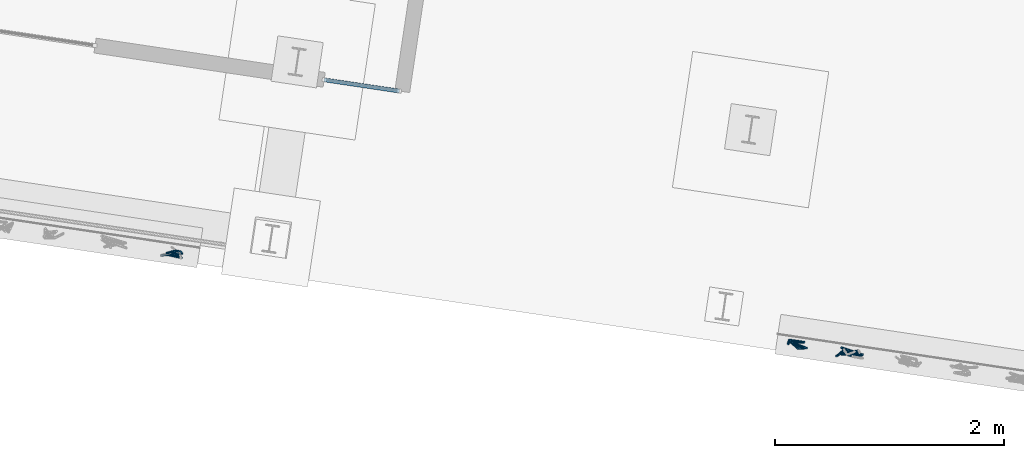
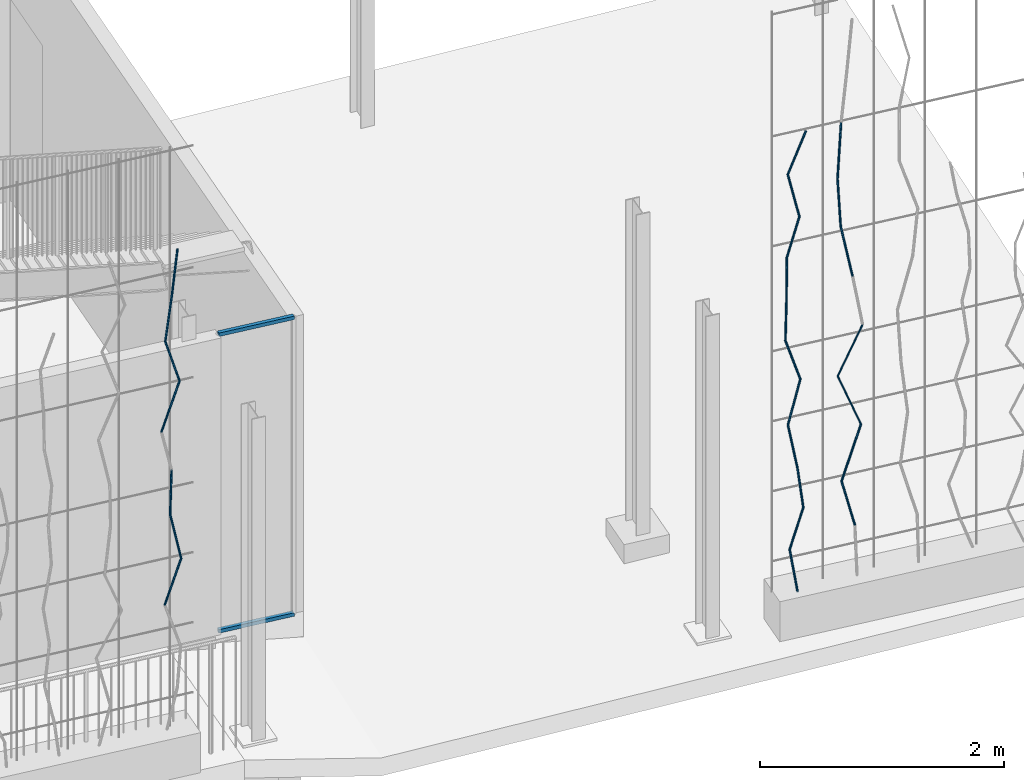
# One storey, part 124 of 142: 27 members, 1 element without a shape of its own.
"""IFC4 building model written with IfcOpenShell, lengths in metres."""

from ifc_helpers import new_model, si_unit, direction, frame, origin_with_axes, place, context, subcontext, project, spatial, rectangle, circle, extrude, material, material_profile, profile_set, profile_usage, type_object, element, aggregate, save


model = new_model("IFC4")

# Units and contexts
model_context = context("Model", 3, precision=1e-05, world=origin_with_axes(), true_north=direction((0.0, 1.0)))
body_context = subcontext(model_context, "Body", "Model", "MODEL_VIEW")
ifc_project = project(units=[si_unit("AREAUNIT", "SQUARE_METRE"), si_unit("VOLUMEUNIT", "CUBIC_METRE"), si_unit("LENGTHUNIT", "METRE")], contexts=[model_context])

# Site, building, storey
site_placement = place(None, origin_with_axes())
site = spatial("IfcSite", under=ifc_project, at=site_placement, Name="Lares · Rua das Mercês · artigo 4771")
building_placement = place(site_placement, frame((15.0, 9.7, 14.65), z_axis=(0.0, 0.0, 1.0), x_axis=(0.989015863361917, -0.147809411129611, 0.0)))
building = spatial("IfcBuilding", under=site, at=building_placement, Name="Casa Sobreposta")
storey_placement = place(building_placement, origin_with_axes())
storey = spatial("IfcBuildingStorey", under=building, at=storey_placement, Name="00 · Habitação e estacionamento", Elevation=14.65)

# Members
ifc_material_1 = material(Name="Aço pintado / Stahl lackiert", Category="steel")
ifc_material_profile_1 = material_profile(ifc_material_1, rectangle(XDim=0.035, YDim=0.035))
ifc_profile_set_1 = profile_set([ifc_material_profile_1], Name="R0.035")
ifc_profile_usage_1 = profile_usage(ifc_profile_set_1)
member_type_1 = type_object("IfcMemberType", Name="R0.035 / steel", PredefinedType="NOTDEFINED", material=ifc_profile_set_1)
member_1_placement = place(storey_placement, frame((24.256, 0.0, 0.0), z_axis=(1.0, 0.0, 0.0), x_axis=(0.0, -1.0, 0.0)))
element("IfcMember", 1, at=member_1_placement, inside=storey, type_object=member_type_1, material=ifc_profile_usage_1, Name="Folha de correr sul 12 · travessa", context=body_context, shape_type="SweptSolid", body=[
    extrude(rectangle(XDim=0.035, YDim=0.035), origin_with_axes(), (0.0, 0.0, 1.0), 0.664000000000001),
])
ifc_profile_usage_2 = profile_usage(ifc_profile_set_1)
member_2_placement = place(storey_placement, frame((24.256, 0.0, 2.968), z_axis=(1.0, 0.0, 0.0), x_axis=(0.0, -1.0, 0.0)))
element("IfcMember", 2, at=member_2_placement, inside=storey, type_object=member_type_1, material=ifc_profile_usage_2, Name="Folha de correr sul 12 · travessa", context=body_context, shape_type="SweptSolid", body=[
    extrude(rectangle(XDim=0.035, YDim=0.035), origin_with_axes(), (0.0, 0.0, 1.0), 0.664000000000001),
])

# Assembly, members
assembly_placement = place(storey_placement, origin_with_axes())
assembly = element("IfcElementAssembly", 3, at=assembly_placement, inside=storey, Name="Fachada sul e pátio · estrutura e trepadeiras", ObjectType="LIVING_SHADE_TRELLIS", PredefinedType="USERDEFINED")
ifc_material_2 = material(Name="Ramos de trepadeiras", Category="wood")
ifc_material_profile_2 = material_profile(ifc_material_2, circle(Radius=0.0075))
ifc_profile_set_2 = profile_set([ifc_material_profile_2], Name="D0.015")
ifc_profile_usage_3 = profile_usage(ifc_profile_set_2)
member_type_2 = type_object("IfcMemberType", Name="D0.015 / vine_wood", PredefinedType="NOTDEFINED", material=ifc_profile_set_2)
member_3_placement = place(assembly_placement, frame((23.1127318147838, -1.70972972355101, 1.66249091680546), z_axis=(0.305577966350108, -0.0228254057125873, 0.951893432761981), x_axis=(-0.0744883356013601, -0.997221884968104, 0.0)))
member_3 = element("IfcMember", 4, at=member_3_placement, type_object=member_type_2, material=ifc_profile_usage_3, Name="Trepadeiras · ramo", context=body_context, shape_type="SweptSolid", body=[
    extrude(circle(Radius=0.0075), origin_with_axes(), (0.0, 0.0, 1.0), 0.459607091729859),
])
ifc_profile_usage_4 = profile_usage(ifc_profile_set_2)
member_4_placement = place(assembly_placement, frame((23.2531776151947, -1.72022044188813, 2.09998788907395), z_axis=(-0.1902599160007, 0.0693399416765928, 0.979281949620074), x_axis=(0.34241690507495, 0.939548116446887, 0.0)))
member_4 = element("IfcMember", 5, at=member_4_placement, type_object=member_type_2, material=ifc_profile_usage_4, Name="Trepadeiras · ramo", context=body_context, shape_type="SweptSolid", body=[
    extrude(circle(Radius=0.0075), origin_with_axes(), (0.0, 0.0, 1.0), 0.446752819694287),
])
ifc_profile_usage_5 = profile_usage(ifc_profile_set_2)
member_5_placement = place(assembly_placement, frame((23.1681784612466, -1.68924262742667, 2.53748486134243), z_axis=(0.0371367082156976, 0.0220993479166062, 0.999065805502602), x_axis=(0.999310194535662, -0.000821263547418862, -0.0371276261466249)))
member_5 = element("IfcMember", 6, at=member_5_placement, type_object=member_type_2, material=ifc_profile_usage_5, Name="Trepadeiras · ramo", context=body_context, shape_type="SweptSolid", body=[
    extrude(circle(Radius=0.0075), origin_with_axes(), (0.0, 0.0, 1.0), 0.437906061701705),
])
ifc_profile_usage_6 = profile_usage(ifc_profile_set_2)
member_6_placement = place(assembly_placement, frame((23.0776264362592, -1.72477457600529, 3.4124788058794), z_axis=(0.372604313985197, 0.0898929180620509, 0.923626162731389), x_axis=(0.234526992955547, -0.972109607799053, 0.0)))
member_6 = element("IfcMember", 7, at=member_6_placement, type_object=member_type_2, material=ifc_profile_usage_6, Name="Trepadeiras · ramo", context=body_context, shape_type="SweptSolid", body=[
    extrude(circle(Radius=0.0075), origin_with_axes(), (0.0, 0.0, 1.0), 0.473673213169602),
])
ifc_profile_usage_7 = profile_usage(ifc_profile_set_2)
member_7_placement = place(assembly_placement, frame((23.2541191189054, -1.68219470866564, 3.84997577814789), z_axis=(-0.289085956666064, -0.0350734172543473, 0.95666042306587), x_axis=(-0.120442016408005, 0.992720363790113, 0.0)))
member_7 = element("IfcMember", 8, at=member_7_placement, type_object=member_type_2, material=ifc_profile_usage_7, Name="Trepadeiras · ramo", context=body_context, shape_type="SweptSolid", body=[
    extrude(circle(Radius=0.0075), origin_with_axes(), (0.0, 0.0, 1.0), 0.457316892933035),
])
ifc_profile_usage_8 = profile_usage(ifc_profile_set_2)
member_8_placement = place(assembly_placement, frame((23.1219152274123, -1.69823437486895, 4.28747275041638), z_axis=(0.162216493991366, 0.0710607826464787, 0.984193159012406), x_axis=(0.401250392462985, -0.915968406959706, 0.0)))
member_8 = element("IfcMember", 9, at=member_8_placement, type_object=member_type_2, material=ifc_profile_usage_8, Name="Trepadeiras · ramo", context=body_context, shape_type="SweptSolid", body=[
    extrude(circle(Radius=0.0075), origin_with_axes(), (0.0, 0.0, 1.0), 0.444523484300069),
])
ifc_profile_usage_9 = profile_usage(ifc_profile_set_2)
member_9_placement = place(assembly_placement, frame((23.1940242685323, -1.66664618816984, 4.72496972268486), z_axis=(0.106000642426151, -0.00536431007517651, 0.994351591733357), x_axis=(-0.050541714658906, -0.998721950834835, 0.0)))
member_9 = element("IfcMember", 10, at=member_9_placement, type_object=member_type_2, material=ifc_profile_usage_9, Name="Trepadeiras · ramo", context=body_context, shape_type="SweptSolid", body=[
    extrude(circle(Radius=0.0075), origin_with_axes(), (0.0, 0.0, 1.0), 0.439982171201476),
])
ifc_profile_usage_10 = profile_usage(ifc_profile_set_2)
member_10_placement = place(assembly_placement, frame((28.693106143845, -1.69425509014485, 0.35), z_axis=(-0.133640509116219, 0.0815831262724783, 0.987666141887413), x_axis=(0.521049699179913, 0.853526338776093, 0.0)))
member_10 = element("IfcMember", 11, at=member_10_placement, type_object=member_type_2, material=ifc_profile_usage_10, Name="Trepadeiras · ramo", context=body_context, shape_type="SweptSolid", body=[
    extrude(circle(Radius=0.0075), origin_with_axes(), (0.0, 0.0, 1.0), 0.422593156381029),
])
ifc_profile_usage_11 = profile_usage(ifc_profile_set_2)
member_11_placement = place(assembly_placement, frame((28.6366305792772, -1.65977861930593, 0.767380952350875), z_axis=(0.242432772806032, -0.0905571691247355, 0.965932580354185), x_axis=(-0.34992011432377, -0.936779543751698, 0.0)))
member_11 = element("IfcMember", 12, at=member_11_placement, type_object=member_type_2, material=ifc_profile_usage_11, Name="Trepadeiras · ramo", context=body_context, shape_type="SweptSolid", body=[
    extrude(circle(Radius=0.0075), origin_with_axes(), (0.0, 0.0, 1.0), 0.432101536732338),
])
ifc_profile_usage_12 = profile_usage(ifc_profile_set_2)
member_12_placement = place(assembly_placement, frame((28.741386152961, -1.69890851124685, 1.18476190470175), z_axis=(-0.12972488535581, -0.0163543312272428, 0.991415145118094), x_axis=(-0.125079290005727, 0.992146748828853, 0.0)))
member_12 = element("IfcMember", 13, at=member_12_placement, type_object=member_type_2, material=ifc_profile_usage_12, Name="Trepadeiras · ramo", context=body_context, shape_type="SweptSolid", body=[
    extrude(circle(Radius=0.0075), origin_with_axes(), (0.0, 0.0, 1.0), 0.42099513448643),
])
ifc_profile_usage_13 = profile_usage(ifc_profile_set_2)
member_13_placement = place(assembly_placement, frame((28.6867726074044, -1.7057936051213, 1.60214285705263), z_axis=(-0.158406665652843, 0.0975968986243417, 0.982538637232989), x_axis=(0.524549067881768, 0.851380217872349, 0.0)))
member_13 = element("IfcMember", 14, at=member_13_placement, type_object=member_type_2, material=ifc_profile_usage_13, Name="Trepadeiras · ramo", context=body_context, shape_type="SweptSolid", body=[
    extrude(circle(Radius=0.0075), origin_with_axes(), (0.0, 0.0, 1.0), 0.424798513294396),
])
ifc_profile_usage_14 = profile_usage(ifc_profile_set_2)
member_14_placement = place(assembly_placement, frame((28.6194816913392, -1.66433458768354, 2.0195238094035), z_axis=(0.269525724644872, 0.0449849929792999, 0.961941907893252), x_axis=(0.164627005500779, -0.98635589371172, 0.0)))
member_14 = element("IfcMember", 15, at=member_14_placement, type_object=member_type_2, material=ifc_profile_usage_14, Name="Trepadeiras · ramo", context=body_context, shape_type="SweptSolid", body=[
    extrude(circle(Radius=0.0075), origin_with_axes(), (0.0, 0.0, 1.0), 0.433894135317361),
])
ifc_profile_usage_15 = profile_usage(ifc_profile_set_2)
member_15_placement = place(assembly_placement, frame((28.7364273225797, -1.64481586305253, 2.43690476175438), z_axis=(-0.300876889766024, -0.000803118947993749, 0.953662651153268), x_axis=(-0.00266925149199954, 0.999996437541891, 0.0)))
member_15 = element("IfcMember", 16, at=member_15_placement, type_object=member_type_2, material=ifc_profile_usage_15, Name="Trepadeiras · ramo", context=body_context, shape_type="SweptSolid", body=[
    extrude(circle(Radius=0.0075), origin_with_axes(), (0.0, 0.0, 1.0), 0.43766100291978),
])
ifc_profile_usage_16 = profile_usage(ifc_profile_set_2)
member_16_placement = place(assembly_placement, frame((28.6047452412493, -1.64516735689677, 2.85428571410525), z_axis=(-0.0106424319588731, -0.0836177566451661, 0.996441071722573), x_axis=(-0.991997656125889, 0.126256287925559, 0.0)))
member_16 = element("IfcMember", 17, at=member_16_placement, type_object=member_type_2, material=ifc_profile_usage_16, Name="Trepadeiras · ramo", context=body_context, shape_type="SweptSolid", body=[
    extrude(circle(Radius=0.0075), origin_with_axes(), (0.0, 0.0, 1.0), 0.418871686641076),
])
ifc_profile_usage_17 = profile_usage(ifc_profile_set_2)
member_17_placement = place(assembly_placement, frame((28.6002874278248, -1.68019246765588, 3.27166666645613), z_axis=(0.0348806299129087, 0.065653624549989, 0.99723264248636), x_axis=(0.883103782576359, -0.469177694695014, 0.0)))
member_17 = element("IfcMember", 18, at=member_17_placement, type_object=member_type_2, material=ifc_profile_usage_17, Name="Trepadeiras · ramo", context=body_context, shape_type="SweptSolid", body=[
    extrude(circle(Radius=0.0075), origin_with_axes(), (0.0, 0.0, 1.0), 0.418539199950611),
])
ifc_profile_usage_18 = profile_usage(ifc_profile_set_2)
member_18_placement = place(assembly_placement, frame((28.6148863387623, -1.65271385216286, 3.689047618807), z_axis=(0.211752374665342, -0.113877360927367, 0.970666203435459), x_axis=(-0.473638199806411, -0.880719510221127, 0.0)))
member_18 = element("IfcMember", 19, at=member_18_placement, type_object=member_type_2, material=ifc_profile_usage_18, Name="Trepadeiras · ramo", context=body_context, shape_type="SweptSolid", body=[
    extrude(circle(Radius=0.0075), origin_with_axes(), (0.0, 0.0, 1.0), 0.429994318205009),
])
ifc_profile_usage_19 = profile_usage(ifc_profile_set_2)
member_19_placement = place(assembly_placement, frame((28.7059386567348, -1.70168047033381, 4.10642857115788), z_axis=(-0.201496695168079, 0.0950246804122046, 0.974868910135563), x_axis=(0.426541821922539, 0.90446784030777, 0.0)))
member_19 = element("IfcMember", 20, at=member_19_placement, type_object=member_type_2, material=ifc_profile_usage_19, Name="Trepadeiras · ramo", context=body_context, shape_type="SweptSolid", body=[
    extrude(circle(Radius=0.0075), origin_with_axes(), (0.0, 0.0, 1.0), 0.42814059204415),
])
ifc_profile_usage_20 = profile_usage(ifc_profile_set_2)
member_20_placement = place(assembly_placement, frame((28.6196697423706, -1.66099654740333, 4.52380952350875), z_axis=(0.329421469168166, -0.0722360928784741, 0.94141565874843), x_axis=(-0.214192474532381, -0.976791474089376, 0.0)))
member_20 = element("IfcMember", 21, at=member_20_placement, type_object=member_type_2, material=ifc_profile_usage_20, Name="Trepadeiras · ramo", context=body_context, shape_type="SweptSolid", body=[
    extrude(circle(Radius=0.0075), origin_with_axes(), (0.0, 0.0, 1.0), 0.443354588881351),
])
ifc_profile_usage_21 = profile_usage(ifc_profile_set_2)
member_21_placement = place(assembly_placement, frame((29.215554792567, -1.64706171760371, 0.857738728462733), z_axis=(-0.262190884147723, -0.105251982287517, 0.95925906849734), x_axis=(-0.372536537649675, 0.928017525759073, 1.17797142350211e-17)))
member_21 = element("IfcMember", 22, at=member_21_placement, type_object=member_type_2, material=ifc_profile_usage_21, Name="Trepadeiras · ramo", context=body_context, shape_type="SweptSolid", body=[
    extrude(circle(Radius=0.0075), origin_with_axes(), (0.0, 0.0, 1.0), 0.529303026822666),
])
ifc_profile_usage_22 = profile_usage(ifc_profile_set_2)
member_22_placement = place(assembly_placement, frame((29.0767763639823, -1.70277191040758, 1.36547745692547), z_axis=(0.334661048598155, 0.0459395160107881, 0.941218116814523), x_axis=(0.135996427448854, -0.990709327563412, 0.0)))
member_22 = element("IfcMember", 23, at=member_22_placement, type_object=member_type_2, material=ifc_profile_usage_22, Name="Trepadeiras · ramo", context=body_context, shape_type="SweptSolid", body=[
    extrude(circle(Radius=0.0075), origin_with_axes(), (0.0, 0.0, 1.0), 0.53944852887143),
])
ifc_profile_usage_23 = profile_usage(ifc_profile_set_2)
member_23_placement = place(assembly_placement, frame((29.2573087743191, -1.67798990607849, 1.8732161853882), z_axis=(-0.351809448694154, 0.062891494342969, 0.933956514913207), x_axis=(0.175976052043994, 0.984394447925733, 0.0)))
member_23 = element("IfcMember", 24, at=member_23_placement, type_object=member_type_2, material=ifc_profile_usage_23, Name="Trepadeiras · ramo", context=body_context, shape_type="SweptSolid", body=[
    extrude(circle(Radius=0.0075), origin_with_axes(), (0.0, 0.0, 1.0), 0.543642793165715),
])
ifc_profile_usage_24 = profile_usage(ifc_profile_set_2)
member_24_placement = place(assembly_placement, frame((29.0660501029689, -1.64379939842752, 2.38095491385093), z_axis=(0.354514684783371, -0.116418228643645, 0.927774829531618), x_axis=(-0.311995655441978, -0.950083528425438, 1.72528319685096e-17)))
member_24 = element("IfcMember", 25, at=member_24_placement, type_object=member_type_2, material=ifc_profile_usage_24, Name="Trepadeiras · ramo", context=body_context, shape_type="SweptSolid", body=[
    extrude(circle(Radius=0.0075), origin_with_axes(), (0.0, 0.0, 1.0), 0.547265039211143),
])
ifc_profile_usage_25 = profile_usage(ifc_profile_set_2)
member_25_placement = place(assembly_placement, frame((29.1725859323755, -1.70433431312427, 3.3964323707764), z_axis=(-0.188513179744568, 0.031408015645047, 0.981568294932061), x_axis=(0.164343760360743, 0.986403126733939, 0.0)))
member_25 = element("IfcMember", 26, at=member_25_placement, type_object=member_type_2, material=ifc_profile_usage_25, Name="Trepadeiras · ramo", context=body_context, shape_type="SweptSolid", body=[
    extrude(circle(Radius=0.0075), origin_with_axes(), (0.0, 0.0, 1.0), 0.517272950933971),
])
ifc_profile_usage_26 = profile_usage(ifc_profile_set_2)
member_26_placement = place(assembly_placement, frame((29.075073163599, -1.68808779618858, 3.90417109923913), z_axis=(-0.0813127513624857, -0.0668964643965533, 0.99444109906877), x_axis=(-0.635328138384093, 0.772242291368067, 0.0)))
member_26 = element("IfcMember", 27, at=member_26_placement, type_object=member_type_2, material=ifc_profile_usage_26, Name="Trepadeiras · ramo", context=body_context, shape_type="SweptSolid", body=[
    extrude(circle(Radius=0.0075), origin_with_axes(), (0.0, 0.0, 1.0), 0.510576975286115),
])
ifc_profile_usage_27 = profile_usage(ifc_profile_set_2)
member_27_placement = place(assembly_placement, frame((29.0335567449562, -1.7222435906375, 4.41190982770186), z_axis=(0.109992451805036, 0.125509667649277, 0.985976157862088), x_axis=(0.752067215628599, -0.659086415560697, 0.0)))
member_27 = element("IfcMember", 28, at=member_27_placement, type_object=member_type_2, material=ifc_profile_usage_27, Name="Trepadeiras · ramo", context=body_context, shape_type="SweptSolid", body=[
    extrude(circle(Radius=0.0075), origin_with_axes(), (0.0, 0.0, 1.0), 0.514960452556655),
])
aggregate(assembly, [member_3, member_4, member_5, member_6, member_7, member_8, member_9, member_10, member_11, member_12, member_13, member_14, member_15, member_16, member_17, member_18, member_19, member_20, member_21, member_22, member_23, member_24, member_25, member_26, member_27])

save(model, "model.ifc")
